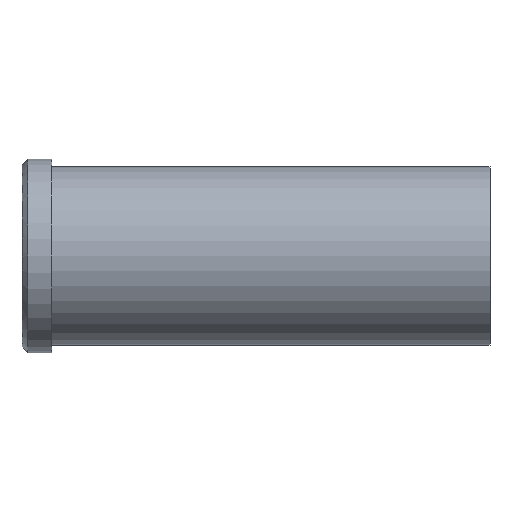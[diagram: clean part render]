
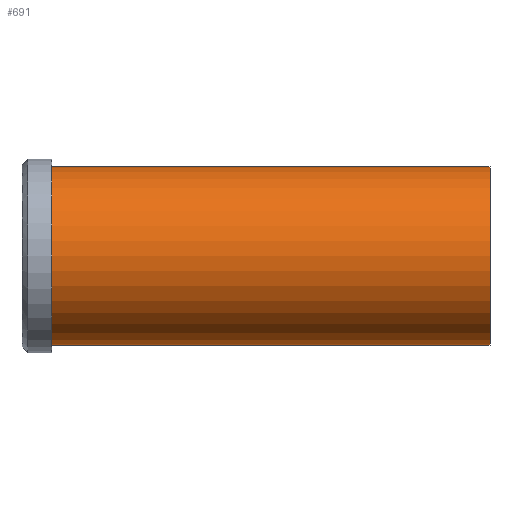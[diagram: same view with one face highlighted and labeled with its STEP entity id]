
A CAD part, front view. The second image highlights one B-rep face of the part: STEP entity #691.
In plain terms, the highlighted cylindrical face has radius 24 mm (diameter 48 mm), a partial arc.
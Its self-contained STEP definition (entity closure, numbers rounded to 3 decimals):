
#501=CARTESIAN_POINT('Vertex',(0.,0.,-24.)) ;
#506=CARTESIAN_POINT('Axis2P3D Location',(0.,0.,0.)) ;
#510=CARTESIAN_POINT('Vertex',(0.,-24.,0.)) ;
#513=CARTESIAN_POINT('Axis2P3D Location',(0.,0.,0.)) ;
#517=CARTESIAN_POINT('Vertex',(0.,0.,24.)) ;
#631=CARTESIAN_POINT('Line Origine',(118.,0.,24.)) ;
#635=CARTESIAN_POINT('Vertex',(118.,0.,24.)) ;
#649=CARTESIAN_POINT('Vertex',(118.,0.,-24.)) ;
#652=CARTESIAN_POINT('Line Origine',(118.,0.,-24.)) ;
#666=CARTESIAN_POINT('Axis2P3D Location',(118.,0.,0.)) ;
#671=CARTESIAN_POINT('Axis2P3D Location',(118.,0.,0.)) ;
#675=CARTESIAN_POINT('Vertex',(118.,-24.,0.)) ;
#678=CARTESIAN_POINT('Axis2P3D Location',(118.,0.,0.)) ;
#507=DIRECTION('Axis2P3D Direction',(1.,0.,-0.)) ;
#514=DIRECTION('Axis2P3D Direction',(1.,0.,-0.)) ;
#632=DIRECTION('Vector Direction',(-1.,0.,0.)) ;
#653=DIRECTION('Vector Direction',(-1.,0.,0.)) ;
#667=DIRECTION('Axis2P3D Direction',(-1.,-0.,-0.)) ;
#668=DIRECTION('Axis2P3D XDirection',(0.,0.,-1.)) ;
#672=DIRECTION('Axis2P3D Direction',(-1.,-0.,-0.)) ;
#679=DIRECTION('Axis2P3D Direction',(-1.,-0.,-0.)) ;
#508=AXIS2_PLACEMENT_3D('Circle Axis2P3D',#506,#507,$) ;
#515=AXIS2_PLACEMENT_3D('Circle Axis2P3D',#513,#514,$) ;
#669=AXIS2_PLACEMENT_3D('Cylinder Axis2P3D',#666,#667,#668) ;
#673=AXIS2_PLACEMENT_3D('Circle Axis2P3D',#671,#672,$) ;
#680=AXIS2_PLACEMENT_3D('Circle Axis2P3D',#678,#679,$) ;
#684=ORIENTED_EDGE('',*,*,#656,.T.) ;
#685=ORIENTED_EDGE('',*,*,#677,.F.) ;
#686=ORIENTED_EDGE('',*,*,#682,.F.) ;
#687=ORIENTED_EDGE('',*,*,#637,.T.) ;
#688=ORIENTED_EDGE('',*,*,#519,.T.) ;
#689=ORIENTED_EDGE('',*,*,#512,.T.) ;
#633=VECTOR('Line Direction',#632,1.) ;
#654=VECTOR('Line Direction',#653,1.) ;
#691=ADVANCED_FACE('353-40X126',(#690),#670,.T.) ;
#509=CIRCLE('generated circle',#508,24.) ;
#516=CIRCLE('generated circle',#515,24.) ;
#674=CIRCLE('generated circle',#673,24.) ;
#681=CIRCLE('generated circle',#680,24.) ;
#670=CYLINDRICAL_SURFACE('generated cylinder',#669,24.) ;
#512=EDGE_CURVE('',#511,#502,#509,.T.) ;
#519=EDGE_CURVE('',#518,#511,#516,.T.) ;
#637=EDGE_CURVE('',#636,#518,#634,.T.) ;
#656=EDGE_CURVE('',#502,#650,#655,.F.) ;
#677=EDGE_CURVE('',#676,#650,#674,.F.) ;
#682=EDGE_CURVE('',#636,#676,#681,.F.) ;
#683=EDGE_LOOP('',(#684,#685,#686,#687,#688,#689)) ;
#690=FACE_OUTER_BOUND('',#683,.T.) ;
#634=LINE('Line',#631,#633) ;
#655=LINE('Line',#652,#654) ;
#502=VERTEX_POINT('',#501) ;
#511=VERTEX_POINT('',#510) ;
#518=VERTEX_POINT('',#517) ;
#636=VERTEX_POINT('',#635) ;
#650=VERTEX_POINT('',#649) ;
#676=VERTEX_POINT('',#675) ;
